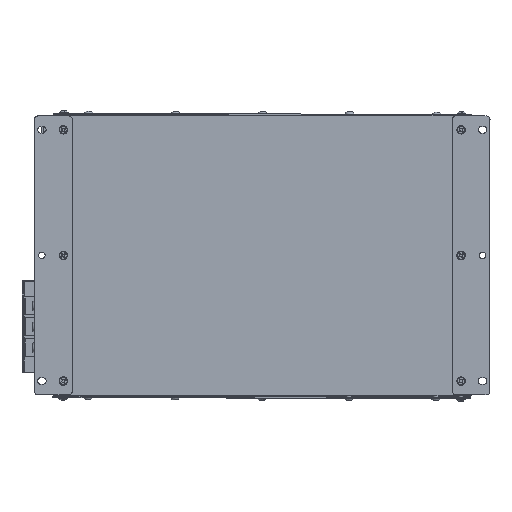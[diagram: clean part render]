
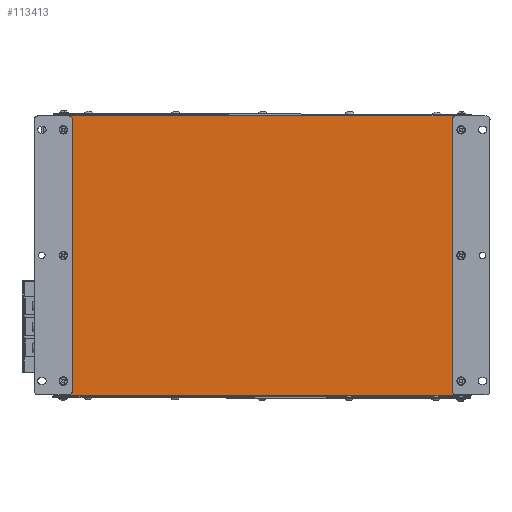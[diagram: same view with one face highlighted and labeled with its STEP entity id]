
A CAD part, front view. The second image highlights one B-rep face of the part: STEP entity #113413.
In plain terms, the highlighted planar face has unit normal (-0.002, -1, 0.001).
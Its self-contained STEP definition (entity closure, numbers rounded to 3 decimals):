
#8233=PLANE('',#120948);
#12689=LINE('',#171001,#22470);
#12691=LINE('',#171005,#22472);
#12783=LINE('',#171414,#22564);
#12789=LINE('',#171431,#22570);
#12793=LINE('',#171439,#22574);
#12973=LINE('',#171940,#22754);
#12979=LINE('',#171956,#22760);
#12983=LINE('',#171964,#22764);
#13518=LINE('',#176623,#23299);
#13527=LINE('',#176641,#23308);
#17630=LINE('',#203587,#27411);
#17634=LINE('',#203594,#27415);
#17635=LINE('',#203595,#27416);
#22470=VECTOR('',#130227,10.);
#22472=VECTOR('',#130229,10.);
#22564=VECTOR('',#130619,10.);
#22570=VECTOR('',#130637,10.);
#22574=VECTOR('',#130647,10.);
#22754=VECTOR('',#131117,10.);
#22760=VECTOR('',#131135,10.);
#22764=VECTOR('',#131145,10.);
#23299=VECTOR('',#132948,10.);
#23308=VECTOR('',#132965,10.);
#27411=VECTOR('',#144996,10.);
#27415=VECTOR('',#145002,10.);
#27416=VECTOR('',#145003,10.);
#34616=FACE_OUTER_BOUND('',#41342,.T.);
#41342=EDGE_LOOP('',(#99049,#99050,#99051,#99052,#99053,#99054,#99055,#99056,
#99057,#99058,#99059,#99060,#99061,#99062,#99063,#99064,#99065));
#42459=CIRCLE('',#116181,4.);
#42462=CIRCLE('',#116190,4.);
#42530=CIRCLE('',#116335,4.);
#42533=CIRCLE('',#116344,4.);
#48957=VERTEX_POINT('',#170998);
#48958=VERTEX_POINT('',#171000);
#48959=VERTEX_POINT('',#171002);
#48960=VERTEX_POINT('',#171004);
#49125=VERTEX_POINT('',#171405);
#49126=VERTEX_POINT('',#171406);
#49128=VERTEX_POINT('',#171412);
#49132=VERTEX_POINT('',#171429);
#49133=VERTEX_POINT('',#171430);
#49134=VERTEX_POINT('',#171435);
#49308=VERTEX_POINT('',#171932);
#49309=VERTEX_POINT('',#171933);
#49314=VERTEX_POINT('',#171955);
#49315=VERTEX_POINT('',#171960);
#49929=VERTEX_POINT('',#176379);
#49931=VERTEX_POINT('',#176382);
#54257=VERTEX_POINT('',#203585);
#61249=EDGE_CURVE('',#48957,#48958,#12689,.T.);
#61251=EDGE_CURVE('',#48959,#48960,#12691,.T.);
#61444=EDGE_CURVE('',#49125,#49126,#42459,.T.);
#61448=EDGE_CURVE('',#49126,#49128,#12783,.T.);
#61456=EDGE_CURVE('',#49132,#49133,#12789,.T.);
#61459=EDGE_CURVE('',#49133,#49134,#42462,.T.);
#61461=EDGE_CURVE('',#49134,#49125,#12793,.T.);
#61705=EDGE_CURVE('',#49308,#49309,#42530,.T.);
#61709=EDGE_CURVE('',#49309,#48958,#12973,.T.);
#61717=EDGE_CURVE('',#48959,#49314,#12979,.T.);
#61720=EDGE_CURVE('',#49314,#49315,#42533,.T.);
#61722=EDGE_CURVE('',#49315,#49308,#12983,.T.);
#62746=EDGE_CURVE('',#49931,#49929,#13518,.T.);
#62755=EDGE_CURVE('',#48960,#49929,#13527,.T.);
#69375=EDGE_CURVE('',#54257,#48957,#17630,.T.);
#69379=EDGE_CURVE('',#49931,#49128,#17634,.T.);
#69380=EDGE_CURVE('',#49132,#54257,#17635,.T.);
#99049=ORIENTED_EDGE('',*,*,#61448,.T.);
#99050=ORIENTED_EDGE('',*,*,#69379,.F.);
#99051=ORIENTED_EDGE('',*,*,#62746,.T.);
#99052=ORIENTED_EDGE('',*,*,#62755,.F.);
#99053=ORIENTED_EDGE('',*,*,#61251,.F.);
#99054=ORIENTED_EDGE('',*,*,#61717,.T.);
#99055=ORIENTED_EDGE('',*,*,#61720,.T.);
#99056=ORIENTED_EDGE('',*,*,#61722,.T.);
#99057=ORIENTED_EDGE('',*,*,#61705,.T.);
#99058=ORIENTED_EDGE('',*,*,#61709,.T.);
#99059=ORIENTED_EDGE('',*,*,#61249,.F.);
#99060=ORIENTED_EDGE('',*,*,#69375,.F.);
#99061=ORIENTED_EDGE('',*,*,#69380,.F.);
#99062=ORIENTED_EDGE('',*,*,#61456,.T.);
#99063=ORIENTED_EDGE('',*,*,#61459,.T.);
#99064=ORIENTED_EDGE('',*,*,#61461,.T.);
#99065=ORIENTED_EDGE('',*,*,#61444,.T.);
#113413=ADVANCED_FACE('',(#34616),#8233,.F.);
#116181=AXIS2_PLACEMENT_3D('',#171407,#130612,#130613);
#116190=AXIS2_PLACEMENT_3D('',#171436,#130642,#130643);
#116335=AXIS2_PLACEMENT_3D('',#171934,#131110,#131111);
#116344=AXIS2_PLACEMENT_3D('',#171961,#131140,#131141);
#120948=AXIS2_PLACEMENT_3D('',#203593,#145000,#145001);
#130227=DIRECTION('',(0.,0.001,1.));
#130229=DIRECTION('',(0.,0.001,1.));
#130612=DIRECTION('center_axis',(0.002,1.,-0.001));
#130613=DIRECTION('ref_axis',(0.,0.001,
1.));
#130619=DIRECTION('',(1.,-0.002,0.));
#130637=DIRECTION('',(-1.,0.002,0.));
#130642=DIRECTION('center_axis',(0.002,1.,-0.001));
#130643=DIRECTION('ref_axis',(-1.,0.002,0.));
#130647=DIRECTION('',(0.,0.001,1.));
#131110=DIRECTION('center_axis',(0.002,1.,-0.001));
#131111=DIRECTION('ref_axis',(0.,-0.001,
-1.));
#131117=DIRECTION('',(-1.,0.002,0.));
#131135=DIRECTION('',(1.,-0.002,0.));
#131140=DIRECTION('center_axis',(0.002,1.,-0.001));
#131141=DIRECTION('ref_axis',(1.,-0.002,0.));
#131145=DIRECTION('',(0.,-0.001,-1.));
#132948=DIRECTION('',(-1.,0.002,0.003));
#132965=DIRECTION('',(1.,-0.002,0.));
#144996=DIRECTION('',(-1.,0.002,0.));
#145000=DIRECTION('center_axis',(0.002,1.,-0.001));
#145001=DIRECTION('ref_axis',(0.,0.001,
1.));
#145002=DIRECTION('',(0.,-0.001,-1.));
#145003=DIRECTION('',(0.,-0.001,-1.));
#170998=CARTESIAN_POINT('',(375.308,-286.467,-102.768));
#171000=CARTESIAN_POINT('',(375.308,-286.466,-102.168));
#171001=CARTESIAN_POINT('',(375.308,-286.467,-102.768));
#171002=CARTESIAN_POINT('',(375.308,-286.189,177.831));
#171004=CARTESIAN_POINT('',(375.308,-286.188,178.431));
#171005=CARTESIAN_POINT('',(375.308,-286.467,-102.768));
#171405=CARTESIAN_POINT('',(775.308,-286.94,173.832));
#171406=CARTESIAN_POINT('',(779.308,-286.944,177.832));
#171407=CARTESIAN_POINT('Origin',(779.308,-286.948,173.832));
#171412=CARTESIAN_POINT('',(794.308,-286.972,177.832));
#171414=CARTESIAN_POINT('',(697.058,-286.79,177.832));
#171429=CARTESIAN_POINT('',(794.307,-287.249,-102.168));
#171430=CARTESIAN_POINT('',(779.308,-287.221,-102.168));
#171431=CARTESIAN_POINT('',(682.058,-287.039,-102.168));
#171435=CARTESIAN_POINT('',(775.308,-287.21,-98.168));
#171436=CARTESIAN_POINT('Origin',(779.308,-287.217,-98.168));
#171439=CARTESIAN_POINT('',(775.308,-287.008,105.832));
#171932=CARTESIAN_POINT('',(394.308,-286.498,-98.168));
#171933=CARTESIAN_POINT('',(390.308,-286.494,-102.168));
#171934=CARTESIAN_POINT('Origin',(390.308,-286.49,-98.168));
#171940=CARTESIAN_POINT('',(472.558,-286.648,-102.168));
#171955=CARTESIAN_POINT('',(390.308,-286.217,177.831));
#171956=CARTESIAN_POINT('',(487.558,-286.399,177.832));
#171960=CARTESIAN_POINT('',(394.308,-286.228,173.831));
#171961=CARTESIAN_POINT('Origin',(390.308,-286.221,173.831));
#171964=CARTESIAN_POINT('',(394.308,-286.431,-30.168));
#176379=CARTESIAN_POINT('',(639.603,-286.682,178.432));
#176382=CARTESIAN_POINT('',(794.308,-286.972,178.006));
#176623=CARTESIAN_POINT('',(689.945,-286.776,178.293));
#176641=CARTESIAN_POINT('',(375.308,-286.188,178.431));
#203585=CARTESIAN_POINT('',(794.307,-287.25,-102.768));
#203587=CARTESIAN_POINT('',(794.307,-287.25,-102.768));
#203593=CARTESIAN_POINT('Origin',(584.808,-286.719,37.832));
#203594=CARTESIAN_POINT('',(794.308,-286.971,178.432));
#203595=CARTESIAN_POINT('',(794.308,-286.971,178.432));
